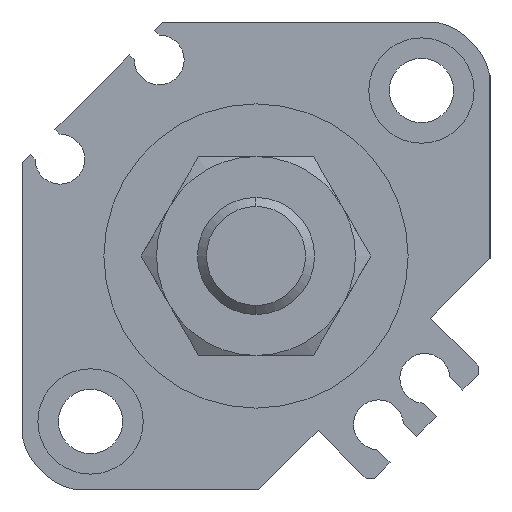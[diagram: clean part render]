
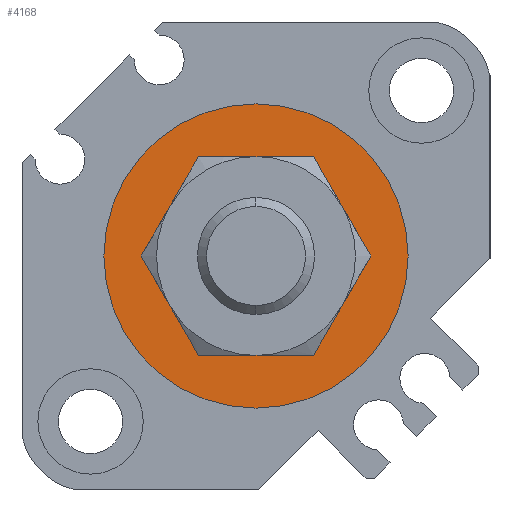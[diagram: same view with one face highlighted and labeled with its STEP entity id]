
A CAD part, left-side view. The second image highlights one B-rep face of the part: STEP entity #4168.
In plain terms, the highlighted planar face has unit normal (-1, 0, 0).
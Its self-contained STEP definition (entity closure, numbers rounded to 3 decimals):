
#257 = VERTEX_POINT ( 'NONE', #4312 ) ;
#480 = VERTEX_POINT ( 'NONE', #894 ) ;
#507 = EDGE_LOOP ( 'NONE', ( #2703, #4023 ) ) ;
#545 = CARTESIAN_POINT ( 'NONE',  ( 1.9, 0., 0. ) ) ;
#653 = DIRECTION ( 'NONE',  ( 0., 0., -1. ) ) ;
#688 = AXIS2_PLACEMENT_3D ( 'NONE', #1352, #4667, #4229 ) ;
#731 = CIRCLE ( 'NONE', #4494, 13. ) ;
#894 = CARTESIAN_POINT ( 'NONE',  ( 1.9, 0., 7.5 ) ) ;
#1199 = DIRECTION ( 'NONE',  ( 1., 0., 0. ) ) ;
#1347 = AXIS2_PLACEMENT_3D ( 'NONE', #3507, #4805, #1401 ) ;
#1352 = CARTESIAN_POINT ( 'NONE',  ( 1.9, 0., 0. ) ) ;
#1396 = EDGE_LOOP ( 'NONE', ( #5081, #1666 ) ) ;
#1401 = DIRECTION ( 'NONE',  ( 0., 1., 0. ) ) ;
#1666 = ORIENTED_EDGE ( 'NONE', *, *, #1800, .T. ) ;
#1717 = EDGE_CURVE ( 'NONE', #3829, #5212, #731, .T. ) ;
#1800 = EDGE_CURVE ( 'NONE', #257, #480, #4589, .T. ) ;
#1860 = CIRCLE ( 'NONE', #4310, 13. ) ;
#1866 = CARTESIAN_POINT ( 'NONE',  ( 1.9, 0., 13. ) ) ;
#2204 = DIRECTION ( 'NONE',  ( 1., 0., 0. ) ) ;
#2314 = EDGE_CURVE ( 'NONE', #480, #257, #3320, .T. ) ;
#2703 = ORIENTED_EDGE ( 'NONE', *, *, #3763, .F. ) ;
#3054 = FACE_BOUND ( 'NONE', #1396, .T. ) ;
#3090 = AXIS2_PLACEMENT_3D ( 'NONE', #4923, #1199, #4547 ) ;
#3320 = CIRCLE ( 'NONE', #688, 7.5 ) ;
#3457 = FACE_OUTER_BOUND ( 'NONE', #507, .T. ) ;
#3507 = CARTESIAN_POINT ( 'NONE',  ( 1.9, 0., 0. ) ) ;
#3593 = CARTESIAN_POINT ( 'NONE',  ( 1.9, 0., -13. ) ) ;
#3763 = EDGE_CURVE ( 'NONE', #5212, #3829, #1860, .T. ) ;
#3829 = VERTEX_POINT ( 'NONE', #3593 ) ;
#3878 = DIRECTION ( 'NONE',  ( 1., 0., 0. ) ) ;
#3896 = DIRECTION ( 'NONE',  ( 0., 0., -1. ) ) ;
#4023 = ORIENTED_EDGE ( 'NONE', *, *, #1717, .F. ) ;
#4168 = ADVANCED_FACE ( 'NONE', ( #3457, #3054 ), #5167, .F. ) ;
#4229 = DIRECTION ( 'NONE',  ( 0., 0., -1. ) ) ;
#4310 = AXIS2_PLACEMENT_3D ( 'NONE', #4758, #3878, #653 ) ;
#4312 = CARTESIAN_POINT ( 'NONE',  ( 1.9, 0., -7.5 ) ) ;
#4494 = AXIS2_PLACEMENT_3D ( 'NONE', #545, #2204, #3896 ) ;
#4547 = DIRECTION ( 'NONE',  ( 0., 0., -1. ) ) ;
#4589 = CIRCLE ( 'NONE', #3090, 7.5 ) ;
#4667 = DIRECTION ( 'NONE',  ( 1., 0., 0. ) ) ;
#4758 = CARTESIAN_POINT ( 'NONE',  ( 1.9, 0., 0. ) ) ;
#4805 = DIRECTION ( 'NONE',  ( 1., 0., 0. ) ) ;
#4923 = CARTESIAN_POINT ( 'NONE',  ( 1.9, 0., 0. ) ) ;
#5081 = ORIENTED_EDGE ( 'NONE', *, *, #2314, .T. ) ;
#5167 = PLANE ( 'NONE',  #1347 ) ;
#5212 = VERTEX_POINT ( 'NONE', #1866 ) ;
